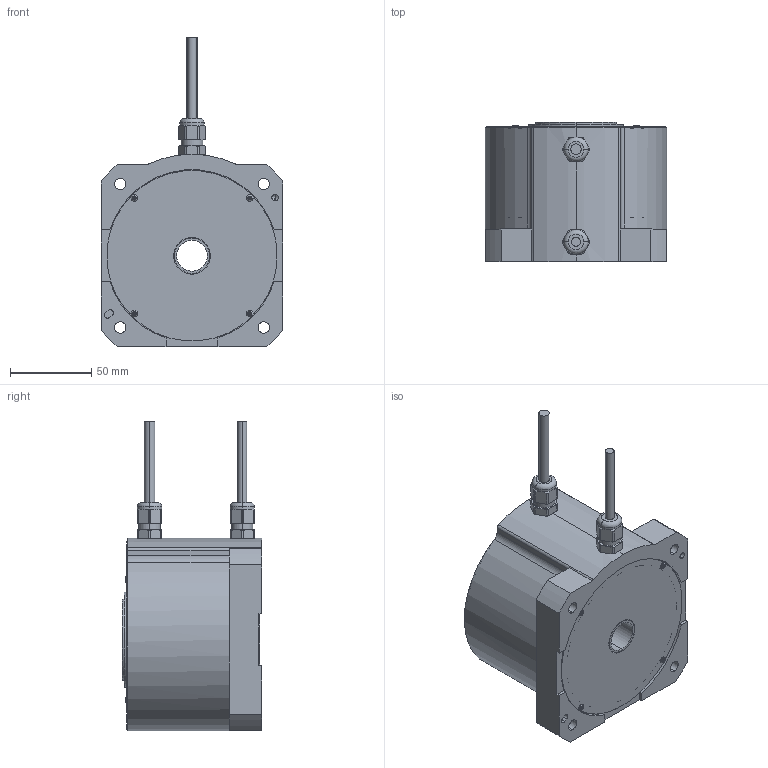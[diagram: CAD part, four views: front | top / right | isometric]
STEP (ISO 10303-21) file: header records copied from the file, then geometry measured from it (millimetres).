
FILE_DESCRIPTION (( 'STEP AP214' ), '1' );
FILE_NAME ('ND110-85-FSP(INC).step', '2024-03-26T00:38:03', ( '' ), ( '' ), 'SwSTEP 2.0', 'SolidWorks 2023', '' );
FILE_SCHEMA (( 'AUTOMOTIVE_DESIGN' ));
Length unit declared in the file: millimetre
Products named in the file (1): ND110-85-FSP(INC)
Bounding box: 112 x 85.8 x 190.5 mm (x, y, z)
Volume: 173192.8 mm3; surface area: 131660.5 mm2
Topology: 14 solids, 14 shells, 587 faces, 1579 edges, 1025 vertices
Faces by surface type: cylinder 239, plane 172, cone 83, bspline 67, torus 26
Entity records: 21800 total; most frequent: CARTESIAN_POINT 7486, ORIENTED_EDGE 3070, DIRECTION 2755, EDGE_CURVE 1535, AXIS2_PLACEMENT_3D 1091, VERTEX_POINT 1025, EDGE_LOOP 680, ADVANCED_FACE 587
